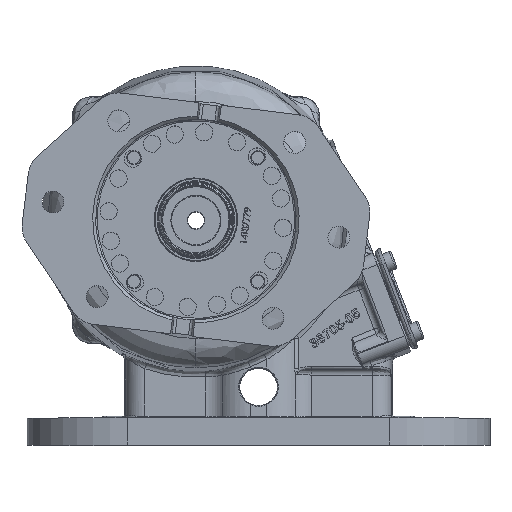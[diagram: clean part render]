
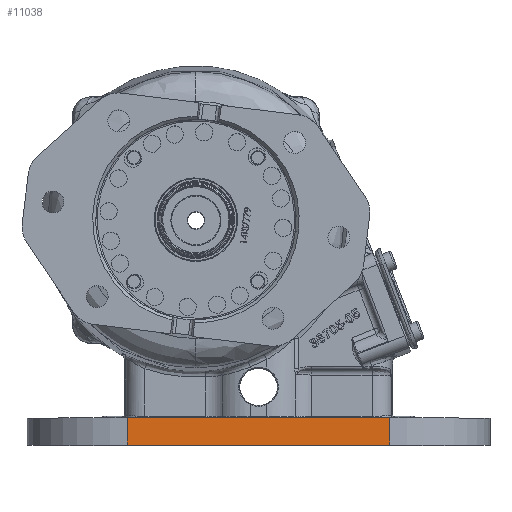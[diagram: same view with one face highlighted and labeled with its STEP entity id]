
A CAD part, top view. The second image highlights one B-rep face of the part: STEP entity #11038.
In plain terms, the highlighted planar face has unit normal (0, 0, 1).
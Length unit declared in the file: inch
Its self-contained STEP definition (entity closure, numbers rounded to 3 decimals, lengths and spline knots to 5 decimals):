
#39 = VERTEX_POINT ( 'NONE', #142845 ) ;
#9131 = EDGE_CURVE ( 'NONE', #45430, #39, #21440, .T. ) ;
#11038 = ADVANCED_FACE ( 'NONE', ( #32015 ), #94901, .T. ) ;
#13460 = ORIENTED_EDGE ( 'NONE', *, *, #66188, .T. ) ;
#16191 = DIRECTION ( 'NONE',  ( -1., 0., 0. ) ) ;
#21440 = LINE ( 'NONE', #99343, #71846 ) ;
#23878 = DIRECTION ( 'NONE',  ( -1., 0., 0. ) ) ;
#32015 = FACE_OUTER_BOUND ( 'NONE', #133005, .T. ) ;
#32752 = VECTOR ( 'NONE', #40651, 39.37008 ) ;
#38889 = EDGE_CURVE ( 'NONE', #96468, #130842, #141830, .T. ) ;
#40651 = DIRECTION ( 'NONE',  ( 0., 1., 0. ) ) ;
#45430 = VERTEX_POINT ( 'NONE', #116383 ) ;
#53389 = CARTESIAN_POINT ( 'NONE',  ( 2.62, -0.895, 3.5 ) ) ;
#60664 = CARTESIAN_POINT ( 'NONE',  ( 2.62, -1.165, 3.5 ) ) ;
#64273 = LINE ( 'NONE', #53389, #150006 ) ;
#66188 = EDGE_CURVE ( 'NONE', #96468, #45430, #64273, .T. ) ;
#71846 = VECTOR ( 'NONE', #23878, 39.37008 ) ;
#81490 = CARTESIAN_POINT ( 'NONE',  ( -2.62, -0.895, 3.5 ) ) ;
#82299 = DIRECTION ( 'NONE',  ( 0., 0., 1. ) ) ;
#90926 = CARTESIAN_POINT ( 'NONE',  ( -2.62, -0.895, 3.5 ) ) ;
#93352 = EDGE_CURVE ( 'NONE', #130842, #39, #105149, .T. ) ;
#94901 = PLANE ( 'NONE',  #151940 ) ;
#96468 = VERTEX_POINT ( 'NONE', #60664 ) ;
#99343 = CARTESIAN_POINT ( 'NONE',  ( -2.62, -0.625, 3.5 ) ) ;
#102653 = VECTOR ( 'NONE', #16191, 39.37008 ) ;
#105149 = LINE ( 'NONE', #90926, #32752 ) ;
#114602 = ORIENTED_EDGE ( 'NONE', *, *, #9131, .T. ) ;
#116383 = CARTESIAN_POINT ( 'NONE',  ( 2.62, -0.625, 3.5 ) ) ;
#129271 = CARTESIAN_POINT ( 'NONE',  ( 0., -1.165, 3.5 ) ) ;
#130842 = VERTEX_POINT ( 'NONE', #148061 ) ;
#133005 = EDGE_LOOP ( 'NONE', ( #114602, #150188, #142653, #13460 ) ) ;
#141830 = LINE ( 'NONE', #129271, #102653 ) ;
#142653 = ORIENTED_EDGE ( 'NONE', *, *, #38889, .F. ) ;
#142845 = CARTESIAN_POINT ( 'NONE',  ( -2.62, -0.625, 3.5 ) ) ;
#142850 = DIRECTION ( 'NONE',  ( 0., -1., 0. ) ) ;
#148061 = CARTESIAN_POINT ( 'NONE',  ( -2.62, -1.165, 3.5 ) ) ;
#150006 = VECTOR ( 'NONE', #157253, 39.37008 ) ;
#150188 = ORIENTED_EDGE ( 'NONE', *, *, #93352, .F. ) ;
#151940 = AXIS2_PLACEMENT_3D ( 'NONE', #81490, #82299, #142850 ) ;
#157253 = DIRECTION ( 'NONE',  ( 0., 1., 0. ) ) ;
